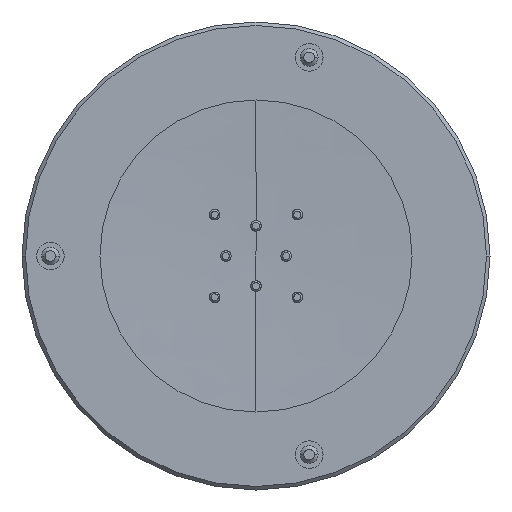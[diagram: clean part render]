
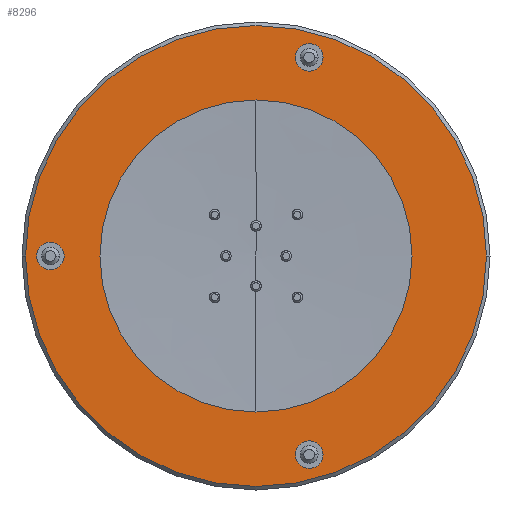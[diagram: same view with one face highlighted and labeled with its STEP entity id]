
A CAD part, left-side view. The second image highlights one B-rep face of the part: STEP entity #8296.
In plain terms, the highlighted planar face has unit normal (-1, 0, 0).
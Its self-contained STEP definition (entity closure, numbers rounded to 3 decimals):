
#48=CARTESIAN_POINT('',(-12.5,0.,0.));
#49=DIRECTION('',(1.,0.,0.));
#50=DIRECTION('',(0.,1.,0.));
#51=AXIS2_PLACEMENT_3D('',#48,#49,#50);
#53=CARTESIAN_POINT('',(-12.5,0.,0.));
#54=DIRECTION('',(1.,0.,0.));
#55=DIRECTION('',(0.,0.,1.));
#56=AXIS2_PLACEMENT_3D('',#53,#54,#55);
#58=CARTESIAN_POINT('',(-12.5,0.,0.));
#59=DIRECTION('',(1.,0.,0.));
#60=DIRECTION('',(0.,-1.,0.));
#61=AXIS2_PLACEMENT_3D('',#58,#59,#60);
#63=CARTESIAN_POINT('',(-12.5,0.,0.));
#64=DIRECTION('',(1.,0.,0.));
#65=DIRECTION('',(0.,0.,-1.));
#66=AXIS2_PLACEMENT_3D('',#63,#64,#65);
#68=CARTESIAN_POINT('',(-12.5,-1.501,5.602));
#69=DIRECTION('',(-1.,0.,0.));
#70=DIRECTION('',(0.,-1.,0.));
#71=AXIS2_PLACEMENT_3D('',#68,#69,#70);
#73=CARTESIAN_POINT('',(-12.5,-1.501,5.602));
#74=DIRECTION('',(-1.,0.,0.));
#75=DIRECTION('',(0.,1.,0.));
#76=AXIS2_PLACEMENT_3D('',#73,#74,#75);
#78=CARTESIAN_POINT('',(-12.5,-1.501,-5.602));
#79=DIRECTION('',(-1.,0.,0.));
#80=DIRECTION('',(0.,-1.,0.));
#81=AXIS2_PLACEMENT_3D('',#78,#79,#80);
#83=CARTESIAN_POINT('',(-12.5,-1.501,-5.602));
#84=DIRECTION('',(-1.,0.,0.));
#85=DIRECTION('',(0.,1.,0.));
#86=AXIS2_PLACEMENT_3D('',#83,#84,#85);
#88=CARTESIAN_POINT('',(-12.5,5.8,0.));
#89=DIRECTION('',(-1.,0.,0.));
#90=DIRECTION('',(0.,-1.,0.));
#91=AXIS2_PLACEMENT_3D('',#88,#89,#90);
#93=CARTESIAN_POINT('',(-12.5,5.8,0.));
#94=DIRECTION('',(-1.,0.,0.));
#95=DIRECTION('',(0.,1.,0.));
#96=AXIS2_PLACEMENT_3D('',#93,#94,#95);
#98=CARTESIAN_POINT('',(-12.5,0.,0.));
#99=DIRECTION('',(-1.,0.,0.));
#100=DIRECTION('',(0.,-1.,0.));
#101=AXIS2_PLACEMENT_3D('',#98,#99,#100);
#103=CARTESIAN_POINT('',(-12.5,0.,0.));
#104=DIRECTION('',(-1.,0.,0.));
#105=DIRECTION('',(0.,1.,0.));
#106=AXIS2_PLACEMENT_3D('',#103,#104,#105);
#7101=CARTESIAN_POINT('',(-12.5,6.19,0.));
#7102=CARTESIAN_POINT('',(-12.5,5.41,0.));
#7103=VERTEX_POINT('',#7101);
#7104=VERTEX_POINT('',#7102);
#7109=CARTESIAN_POINT('',(-12.5,0.,6.5));
#7110=CARTESIAN_POINT('',(-12.5,-6.5,0.));
#7111=VERTEX_POINT('',#7109);
#7112=VERTEX_POINT('',#7110);
#7113=CARTESIAN_POINT('',(-12.5,6.5,0.));
#7114=VERTEX_POINT('',#7113);
#7115=CARTESIAN_POINT('',(-12.5,0.,-6.5));
#7116=VERTEX_POINT('',#7115);
#7117=CARTESIAN_POINT('',(-12.5,-1.891,5.602));
#7118=CARTESIAN_POINT('',(-12.5,-1.111,5.602));
#7119=VERTEX_POINT('',#7117);
#7120=VERTEX_POINT('',#7118);
#7121=CARTESIAN_POINT('',(-12.5,-1.891,-5.602));
#7122=CARTESIAN_POINT('',(-12.5,-1.111,-5.602));
#7123=VERTEX_POINT('',#7121);
#7124=VERTEX_POINT('',#7122);
#7125=CARTESIAN_POINT('',(-12.5,-4.4,0.));
#7126=CARTESIAN_POINT('',(-12.5,4.4,0.));
#7127=VERTEX_POINT('',#7125);
#7128=VERTEX_POINT('',#7126);
#8258=CARTESIAN_POINT('',(-12.5,0.,0.));
#8259=DIRECTION('',(1.,0.,0.));
#8260=DIRECTION('',(0.,-1.,0.));
#8261=AXIS2_PLACEMENT_3D('',#8258,#8259,#8260);
#8262=PLANE('',#8261);
#8264=ORIENTED_EDGE('',*,*,#8263,.T.);
#8266=ORIENTED_EDGE('',*,*,#8265,.T.);
#8268=ORIENTED_EDGE('',*,*,#8267,.T.);
#8270=ORIENTED_EDGE('',*,*,#8269,.T.);
#8271=EDGE_LOOP('',(#8264,#8266,#8268,#8270));
#8272=FACE_OUTER_BOUND('',#8271,.F.);
#8274=ORIENTED_EDGE('',*,*,#8273,.T.);
#8276=ORIENTED_EDGE('',*,*,#8275,.T.);
#8277=EDGE_LOOP('',(#8274,#8276));
#8278=FACE_BOUND('',#8277,.F.);
#8280=ORIENTED_EDGE('',*,*,#8279,.T.);
#8282=ORIENTED_EDGE('',*,*,#8281,.T.);
#8283=EDGE_LOOP('',(#8280,#8282));
#8284=FACE_BOUND('',#8283,.F.);
#8286=ORIENTED_EDGE('',*,*,#8285,.T.);
#8287=ORIENTED_EDGE('',*,*,#8240,.T.);
#8288=EDGE_LOOP('',(#8286,#8287));
#8289=FACE_BOUND('',#8288,.F.);
#8291=ORIENTED_EDGE('',*,*,#8290,.T.);
#8293=ORIENTED_EDGE('',*,*,#8292,.T.);
#8294=EDGE_LOOP('',(#8291,#8293));
#8295=FACE_BOUND('',#8294,.F.);
#52=CIRCLE('',#51,6.5);
#57=CIRCLE('',#56,6.5);
#62=CIRCLE('',#61,6.5);
#67=CIRCLE('',#66,6.5);
#72=CIRCLE('',#71,0.39);
#77=CIRCLE('',#76,0.39);
#82=CIRCLE('',#81,0.39);
#87=CIRCLE('',#86,0.39);
#92=CIRCLE('',#91,0.39);
#97=CIRCLE('',#96,0.39);
#102=CIRCLE('',#101,4.4);
#107=CIRCLE('',#106,4.4);
#8240=EDGE_CURVE('',#7103,#7104,#97,.T.);
#8263=EDGE_CURVE('',#7114,#7111,#52,.T.);
#8265=EDGE_CURVE('',#7111,#7112,#57,.T.);
#8267=EDGE_CURVE('',#7112,#7116,#62,.T.);
#8269=EDGE_CURVE('',#7116,#7114,#67,.T.);
#8273=EDGE_CURVE('',#7119,#7120,#72,.T.);
#8275=EDGE_CURVE('',#7120,#7119,#77,.T.);
#8279=EDGE_CURVE('',#7123,#7124,#82,.T.);
#8281=EDGE_CURVE('',#7124,#7123,#87,.T.);
#8285=EDGE_CURVE('',#7104,#7103,#92,.T.);
#8290=EDGE_CURVE('',#7127,#7128,#102,.T.);
#8292=EDGE_CURVE('',#7128,#7127,#107,.T.);
#8296=ADVANCED_FACE('',(#8272,#8278,#8284,#8289,#8295),#8262,.F.);
